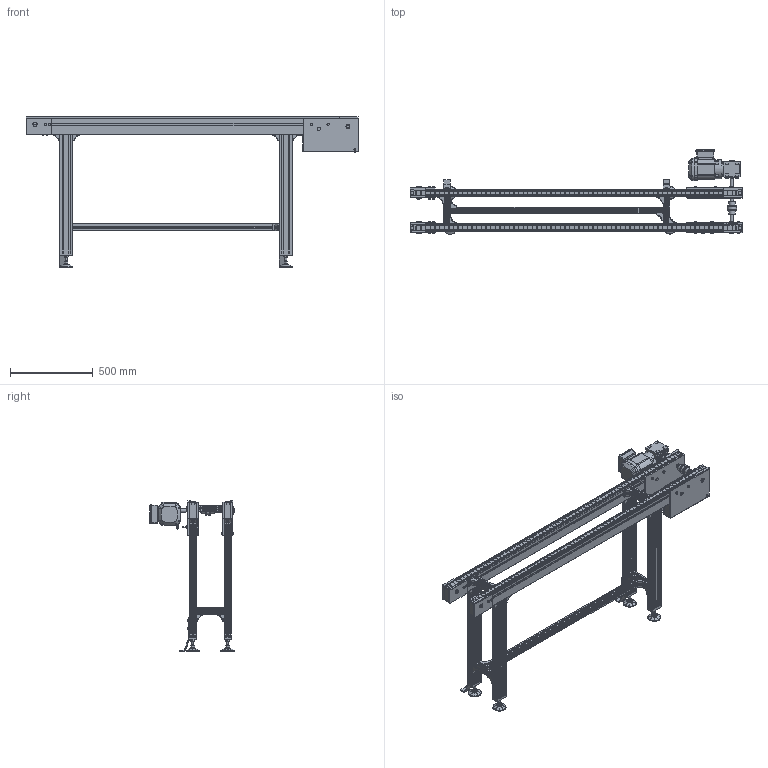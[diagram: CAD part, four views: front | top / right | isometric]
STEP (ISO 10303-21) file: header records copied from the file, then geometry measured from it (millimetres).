
FILE_DESCRIPTION(/* description */ (''),/* implementation_level */ '2;1');
FILE_NAME(/* name */ 'C:\Marketing\01_Versamove-SPU_STEP-Dateien-Homepage\VersamoveStandard\B240\STEP-Dateien\Flachplattenbandförderer_FPF-P-2045_B240_L2000.stp',/* time_stamp */ '2016-12-15T15:00:34+01:00',/* author */ ('herbert.engels'),/* organization */ (''),/* preprocessor_version */ 'ST-DEVELOPER v15.6',/* originating_system */ 'Autodesk Inventor 2015',/* authorisation */ '');
FILE_SCHEMA (('CONFIG_CONTROL_DESIGN'));
Products named in the file (1): Flachplattenbandförderer_Standard_B240_L2000
Bounding box: 2000.5 x 510.57 x 905.3 mm (x, y, z)
Volume: 26806223.9 mm3; surface area: 5959198.6 mm2
Topology: 5 solids, 5 shells, 5824 faces, 16338 edges, 10442 vertices
Faces by surface type: plane 3964, cylinder 1321, cone 350, torus 123, sphere 50, bspline 16
Full cylindrical faces by diameter (mm): 2 x8, 6 x13, 6.647 x8, 7.323 x4, 8 x60, 8.7 x4, 9 x8, 10 x4, 10.066 x1, 11.4 x20, 12 x8, 13 x70, 13.6 x8, 14 x40, 15 x8, 18 x4, 19 x4, 19.77 x4, 20 x17, 25 x1, 25.05 x4, 28 x1, 30 x2, 40 x2, 53 x1, 54 x2, 56 x3, 79 x4, 117 x1
Entity records: 192560 total; most frequent: CARTESIAN_POINT 37580, ORIENTED_EDGE 31414, DIRECTION 29760, EDGE_CURVE 15699, LINE 11472, VECTOR 11472, VERTEX_POINT 10287, AXIS2_PLACEMENT_3D 9144
